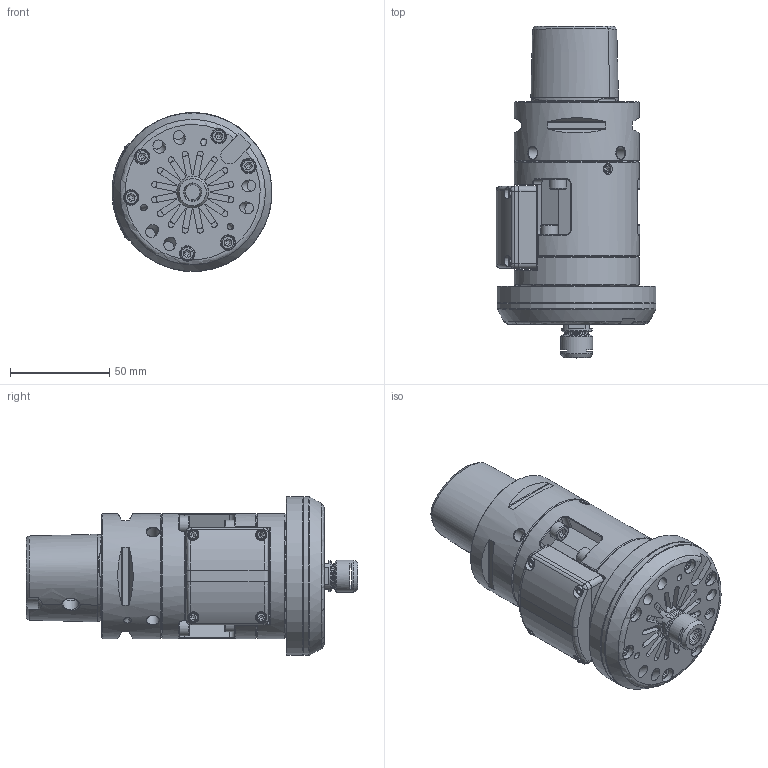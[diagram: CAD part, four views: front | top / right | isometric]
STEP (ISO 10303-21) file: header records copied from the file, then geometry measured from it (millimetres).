
FILE_DESCRIPTION (( 'STEP AP214' ), '1' );
FILE_NAME ('TJS HPC V4 C6.STEP', '2025-06-09T13:12:05', ( 'pc' ), ( '' ), 'SwSTEP 2.0', 'SolidWorks 2024', '' );
FILE_SCHEMA (( 'AUTOMOTIVE_DESIGN' ));
Length unit declared in the file: millimetre
Products named in the file (1): TJS HPC V4 C6
Bounding box: 80.35 x 166.9 x 79.82 mm (x, y, z)
Volume: 277436.6 mm3; surface area: 110251.6 mm2
Topology: 31 solids, 31 shells, 1531 faces, 3644 edges, 2227 vertices
Faces by surface type: plane 762, cylinder 367, cone 235, torus 99, bspline 68
Full cylindrical faces by diameter (mm): 2.5 x6, 3 x3, 3.3 x12, 4 x6, 4.2 x11, 4.3 x8, 4.5 x5, 5 x22, 5.5 x3, 5.8 x3, 6 x11, 6.4 x4, 6.5 x1, 7 x6, 7.4 x6, 7.5 x1, 7.65 x1, 8 x3, 8.1 x2, 8.5 x6, 9.5 x1, 11.21 x1, 11.3 x1, 12 x1, 12.2 x1, 12.3 x1, 13 x1, 13.2 x1, 15.5 x1, 16 x1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
Entity records: 56285 total; most frequent: CARTESIAN_POINT 23172, DIRECTION 6730, ORIENTED_EDGE 6290, EDGE_CURVE 3145, AXIS2_PLACEMENT_3D 2514, VERTEX_POINT 2099, EDGE_LOOP 2062, FACE_OUTER_BOUND 1734
